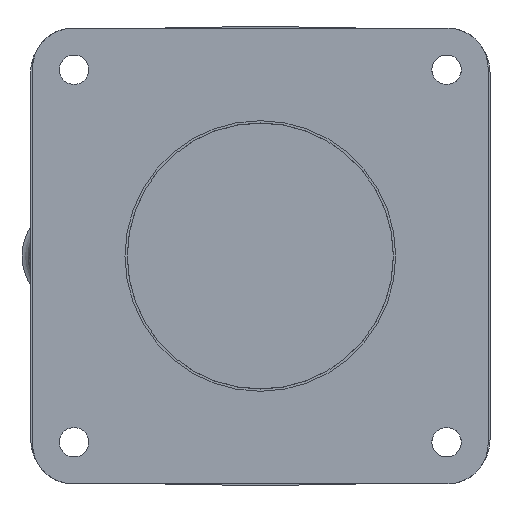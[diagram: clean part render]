
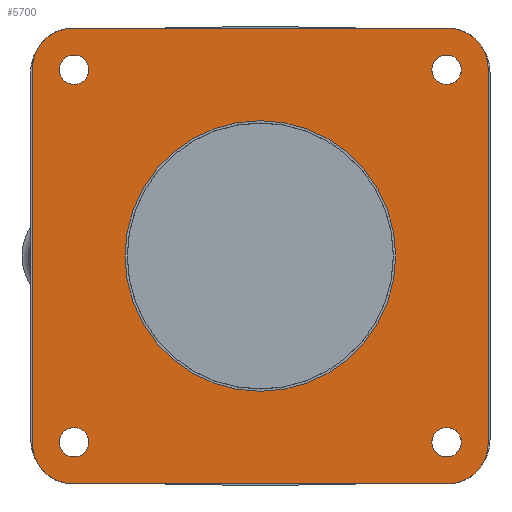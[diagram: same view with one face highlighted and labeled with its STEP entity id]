
A CAD part, front view. The second image highlights one B-rep face of the part: STEP entity #5700.
In plain terms, the highlighted planar face has unit normal (0, -1, 0).
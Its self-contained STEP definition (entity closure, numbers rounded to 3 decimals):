
#493=CARTESIAN_POINT('',(-35.,-2.,35.));
#494=DIRECTION('',(0.,-1.,0.));
#495=DIRECTION('',(0.,0.,1.));
#496=AXIS2_PLACEMENT_3D('',#493,#494,#495);
#498=DIRECTION('',(-1.,0.,0.));
#499=VECTOR('',#498,70.);
#500=CARTESIAN_POINT('',(35.,-2.,42.5));
#501=LINE('856',#500,#499);
#502=CARTESIAN_POINT('',(35.,-2.,35.));
#503=DIRECTION('',(0.,-1.,0.));
#504=DIRECTION('',(1.,0.,0.));
#505=AXIS2_PLACEMENT_3D('',#502,#503,#504);
#507=DIRECTION('',(0.,0.,1.));
#508=VECTOR('',#507,70.);
#509=CARTESIAN_POINT('',(42.5,-2.,-35.));
#510=LINE('854',#509,#508);
#511=CARTESIAN_POINT('',(35.,-2.,-35.));
#512=DIRECTION('',(0.,-1.,0.));
#513=DIRECTION('',(0.,0.,-1.));
#514=AXIS2_PLACEMENT_3D('',#511,#512,#513);
#516=DIRECTION('',(1.,0.,0.));
#517=VECTOR('',#516,70.);
#518=CARTESIAN_POINT('',(-35.,-2.,-42.5));
#519=LINE('852',#518,#517);
#520=CARTESIAN_POINT('',(-35.,-2.,-35.));
#521=DIRECTION('',(0.,-1.,0.));
#522=DIRECTION('',(-1.,0.,0.));
#523=AXIS2_PLACEMENT_3D('',#520,#521,#522);
#525=DIRECTION('',(0.,0.,-1.));
#526=VECTOR('',#525,70.);
#527=CARTESIAN_POINT('',(-42.5,-2.,35.));
#528=LINE('850',#527,#526);
#529=CARTESIAN_POINT('',(0.,-2.,0.));
#530=DIRECTION('',(0.,1.,0.));
#531=DIRECTION('',(1.,0.,0.));
#532=AXIS2_PLACEMENT_3D('',#529,#530,#531);
#534=CARTESIAN_POINT('',(0.,-2.,0.));
#535=DIRECTION('',(0.,1.,0.));
#536=DIRECTION('',(-1.,0.,0.));
#537=AXIS2_PLACEMENT_3D('',#534,#535,#536);
#539=CARTESIAN_POINT('',(-34.75,-2.,34.75));
#540=DIRECTION('',(0.,1.,0.));
#541=DIRECTION('',(1.,0.,0.));
#542=AXIS2_PLACEMENT_3D('',#539,#540,#541);
#544=CARTESIAN_POINT('',(-34.75,-2.,34.75));
#545=DIRECTION('',(0.,1.,0.));
#546=DIRECTION('',(-1.,0.,0.));
#547=AXIS2_PLACEMENT_3D('',#544,#545,#546);
#549=CARTESIAN_POINT('',(34.75,-2.,34.75));
#550=DIRECTION('',(0.,1.,0.));
#551=DIRECTION('',(1.,0.,0.));
#552=AXIS2_PLACEMENT_3D('',#549,#550,#551);
#554=CARTESIAN_POINT('',(34.75,-2.,34.75));
#555=DIRECTION('',(0.,1.,0.));
#556=DIRECTION('',(-1.,0.,0.));
#557=AXIS2_PLACEMENT_3D('',#554,#555,#556);
#559=CARTESIAN_POINT('',(34.75,-2.,-34.75));
#560=DIRECTION('',(0.,1.,0.));
#561=DIRECTION('',(1.,0.,0.));
#562=AXIS2_PLACEMENT_3D('',#559,#560,#561);
#564=CARTESIAN_POINT('',(34.75,-2.,-34.75));
#565=DIRECTION('',(0.,1.,0.));
#566=DIRECTION('',(-1.,0.,0.));
#567=AXIS2_PLACEMENT_3D('',#564,#565,#566);
#569=CARTESIAN_POINT('',(-34.75,-2.,-34.75));
#570=DIRECTION('',(0.,1.,0.));
#571=DIRECTION('',(1.,0.,0.));
#572=AXIS2_PLACEMENT_3D('',#569,#570,#571);
#574=CARTESIAN_POINT('',(-34.75,-2.,-34.75));
#575=DIRECTION('',(0.,1.,0.));
#576=DIRECTION('',(-1.,0.,0.));
#577=AXIS2_PLACEMENT_3D('',#574,#575,#576);
#5105=CARTESIAN_POINT('',(25.25,-2.,0.));
#5106=CARTESIAN_POINT('',(-25.25,-2.,0.));
#5107=VERTEX_POINT('',#5105);
#5108=VERTEX_POINT('',#5106);
#5109=CARTESIAN_POINT('',(-32.,-2.,34.75));
#5110=CARTESIAN_POINT('',(-37.5,-2.,34.75));
#5111=VERTEX_POINT('',#5109);
#5112=VERTEX_POINT('',#5110);
#5113=CARTESIAN_POINT('',(37.5,-2.,34.75));
#5114=CARTESIAN_POINT('',(32.,-2.,34.75));
#5115=VERTEX_POINT('',#5113);
#5116=VERTEX_POINT('',#5114);
#5117=CARTESIAN_POINT('',(37.5,-2.,-34.75));
#5118=CARTESIAN_POINT('',(32.,-2.,-34.75));
#5119=VERTEX_POINT('',#5117);
#5120=VERTEX_POINT('',#5118);
#5121=CARTESIAN_POINT('',(-32.,-2.,-34.75));
#5122=CARTESIAN_POINT('',(-37.5,-2.,-34.75));
#5123=VERTEX_POINT('',#5121);
#5124=VERTEX_POINT('',#5122);
#5125=CARTESIAN_POINT('',(-35.,-2.,42.5));
#5126=CARTESIAN_POINT('',(-42.5,-2.,35.));
#5127=VERTEX_POINT('',#5125);
#5128=VERTEX_POINT('',#5126);
#5129=CARTESIAN_POINT('',(-42.5,-2.,-35.));
#5130=VERTEX_POINT('',#5129);
#5131=CARTESIAN_POINT('',(-35.,-2.,-42.5));
#5132=VERTEX_POINT('',#5131);
#5133=CARTESIAN_POINT('',(35.,-2.,-42.5));
#5134=VERTEX_POINT('',#5133);
#5135=CARTESIAN_POINT('',(42.5,-2.,-35.));
#5136=VERTEX_POINT('',#5135);
#5137=CARTESIAN_POINT('',(42.5,-2.,35.));
#5138=VERTEX_POINT('',#5137);
#5139=CARTESIAN_POINT('',(35.,-2.,42.5));
#5140=VERTEX_POINT('',#5139);
#5651=CARTESIAN_POINT('',(0.,-2.,0.));
#5652=DIRECTION('',(0.,-1.,0.));
#5653=DIRECTION('',(1.,0.,0.));
#5654=AXIS2_PLACEMENT_3D('',#5651,#5652,#5653);
#5655=PLANE('246',#5654);
#5656=ORIENTED_EDGE('849',*,*,#5375,.F.);
#5658=ORIENTED_EDGE('856',*,*,#5657,.F.);
#5660=ORIENTED_EDGE('855',*,*,#5659,.F.);
#5662=ORIENTED_EDGE('854',*,*,#5661,.F.);
#5664=ORIENTED_EDGE('853',*,*,#5663,.F.);
#5665=ORIENTED_EDGE('852',*,*,#5593,.F.);
#5666=ORIENTED_EDGE('851',*,*,#5617,.F.);
#5667=ORIENTED_EDGE('850',*,*,#5638,.F.);
#5668=EDGE_LOOP('246',(#5656,#5658,#5660,#5662,#5664,#5665,#5666,#5667));
#5669=FACE_OUTER_BOUND('246',#5668,.F.);
#5671=ORIENTED_EDGE('839',*,*,#5670,.F.);
#5673=ORIENTED_EDGE('840',*,*,#5672,.F.);
#5674=EDGE_LOOP('246',(#5671,#5673));
#5675=FACE_BOUND('246',#5674,.F.);
#5677=ORIENTED_EDGE('841',*,*,#5676,.F.);
#5679=ORIENTED_EDGE('842',*,*,#5678,.F.);
#5680=EDGE_LOOP('246',(#5677,#5679));
#5681=FACE_BOUND('246',#5680,.F.);
#5683=ORIENTED_EDGE('843',*,*,#5682,.F.);
#5685=ORIENTED_EDGE('844',*,*,#5684,.F.);
#5686=EDGE_LOOP('246',(#5683,#5685));
#5687=FACE_BOUND('246',#5686,.F.);
#5689=ORIENTED_EDGE('845',*,*,#5688,.F.);
#5691=ORIENTED_EDGE('846',*,*,#5690,.F.);
#5692=EDGE_LOOP('246',(#5689,#5691));
#5693=FACE_BOUND('246',#5692,.F.);
#5695=ORIENTED_EDGE('847',*,*,#5694,.F.);
#5697=ORIENTED_EDGE('848',*,*,#5696,.F.);
#5698=EDGE_LOOP('246',(#5695,#5697));
#5699=FACE_BOUND('246',#5698,.F.);
#497=CIRCLE('849',#496,7.5);
#506=CIRCLE('855',#505,7.5);
#515=CIRCLE('853',#514,7.5);
#524=CIRCLE('851',#523,7.5);
#533=CIRCLE('839',#532,25.25);
#538=CIRCLE('840',#537,25.25);
#543=CIRCLE('841',#542,2.75);
#548=CIRCLE('842',#547,2.75);
#553=CIRCLE('843',#552,2.75);
#558=CIRCLE('844',#557,2.75);
#563=CIRCLE('845',#562,2.75);
#568=CIRCLE('846',#567,2.75);
#573=CIRCLE('847',#572,2.75);
#578=CIRCLE('848',#577,2.75);
#5375=EDGE_CURVE('849',#5127,#5128,#497,.T.);
#5593=EDGE_CURVE('852',#5132,#5134,#519,.T.);
#5617=EDGE_CURVE('851',#5130,#5132,#524,.T.);
#5638=EDGE_CURVE('850',#5128,#5130,#528,.T.);
#5657=EDGE_CURVE('856',#5140,#5127,#501,.T.);
#5659=EDGE_CURVE('855',#5138,#5140,#506,.T.);
#5661=EDGE_CURVE('854',#5136,#5138,#510,.T.);
#5663=EDGE_CURVE('853',#5134,#5136,#515,.T.);
#5670=EDGE_CURVE('839',#5107,#5108,#533,.T.);
#5672=EDGE_CURVE('840',#5108,#5107,#538,.T.);
#5676=EDGE_CURVE('841',#5111,#5112,#543,.T.);
#5678=EDGE_CURVE('842',#5112,#5111,#548,.T.);
#5682=EDGE_CURVE('843',#5115,#5116,#553,.T.);
#5684=EDGE_CURVE('844',#5116,#5115,#558,.T.);
#5688=EDGE_CURVE('845',#5119,#5120,#563,.T.);
#5690=EDGE_CURVE('846',#5120,#5119,#568,.T.);
#5694=EDGE_CURVE('847',#5123,#5124,#573,.T.);
#5696=EDGE_CURVE('848',#5124,#5123,#578,.T.);
#5700=ADVANCED_FACE('246',(#5669,#5675,#5681,#5687,#5693,#5699),#5655,.T.);
